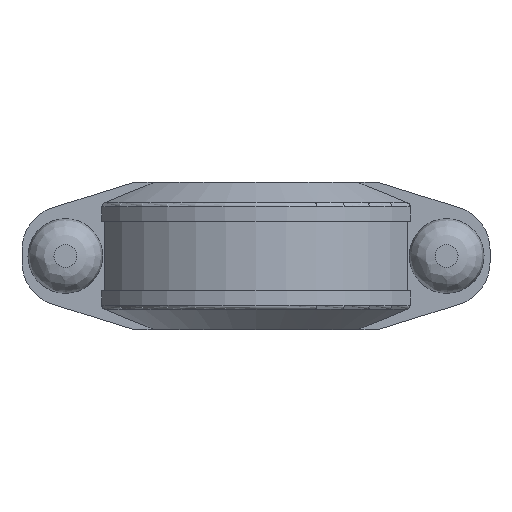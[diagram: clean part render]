
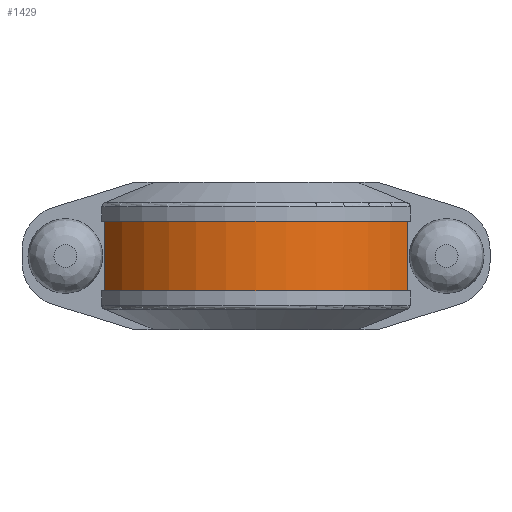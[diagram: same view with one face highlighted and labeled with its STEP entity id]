
A CAD part, front view. The second image highlights one B-rep face of the part: STEP entity #1429.
In plain terms, the highlighted cylindrical face has radius 64.389 mm (diameter 128.778 mm), a partial arc.
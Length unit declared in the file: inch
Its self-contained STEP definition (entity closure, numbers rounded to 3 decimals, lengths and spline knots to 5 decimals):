
#102=CIRCLE('',#1577,2.535);
#103=CIRCLE('',#1578,2.535);
#130=CYLINDRICAL_SURFACE('',#1576,2.535);
#194=FACE_OUTER_BOUND('',#283,.T.);
#283=EDGE_LOOP('',(#1169,#1170,#1171,#1172));
#339=LINE('',#2135,#454);
#413=LINE('',#2471,#528);
#454=VECTOR('',#1725,0.3937);
#528=VECTOR('',#1919,0.3937);
#575=VERTEX_POINT('',#2132);
#576=VERTEX_POINT('',#2134);
#657=VERTEX_POINT('',#2468);
#658=VERTEX_POINT('',#2470);
#719=EDGE_CURVE('',#576,#575,#339,.T.);
#833=EDGE_CURVE('',#658,#657,#413,.T.);
#841=EDGE_CURVE('',#575,#658,#102,.T.);
#842=EDGE_CURVE('',#576,#657,#103,.T.);
#1169=ORIENTED_EDGE('',*,*,#719,.T.);
#1170=ORIENTED_EDGE('',*,*,#841,.T.);
#1171=ORIENTED_EDGE('',*,*,#833,.T.);
#1172=ORIENTED_EDGE('',*,*,#842,.F.);
#1429=ADVANCED_FACE('',(#194),#130,.T.);
#1576=AXIS2_PLACEMENT_3D('',#2493,#1932,#1933);
#1577=AXIS2_PLACEMENT_3D('',#2494,#1934,#1935);
#1578=AXIS2_PLACEMENT_3D('',#2495,#1936,#1937);
#1725=DIRECTION('',(0.,0.,-1.));
#1919=DIRECTION('',(0.,0.,1.));
#1932=DIRECTION('center_axis',(0.,0.,1.));
#1933=DIRECTION('ref_axis',(-1.,0.,0.));
#1934=DIRECTION('center_axis',(0.,0.,1.));
#1935=DIRECTION('ref_axis',(-1.,0.,0.));
#1936=DIRECTION('center_axis',(0.,0.,1.));
#1937=DIRECTION('ref_axis',(-1.,0.,0.));
#2132=CARTESIAN_POINT('',(-2.18811,-1.28,-0.5));
#2134=CARTESIAN_POINT('',(-2.18811,-1.28,0.5));
#2135=CARTESIAN_POINT('',(-2.18811,-1.28,0.));
#2468=CARTESIAN_POINT('',(2.18811,-1.28,0.5));
#2470=CARTESIAN_POINT('',(2.18811,-1.28,-0.5));
#2471=CARTESIAN_POINT('',(2.18811,-1.28,0.));
#2493=CARTESIAN_POINT('Origin',(0.,0.,
0.));
#2494=CARTESIAN_POINT('Origin',(0.,0.,
-0.5));
#2495=CARTESIAN_POINT('Origin',(0.,0.,
0.5));
